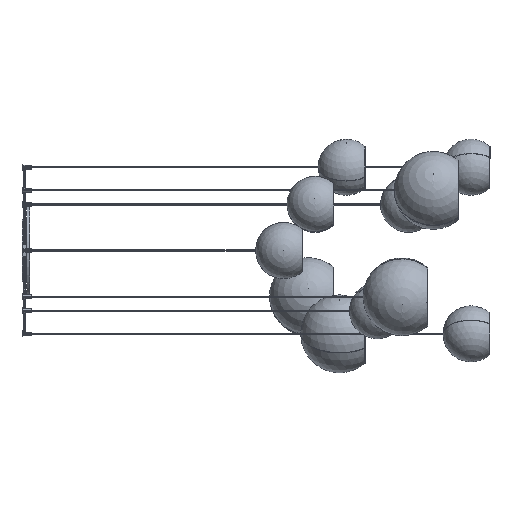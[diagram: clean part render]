
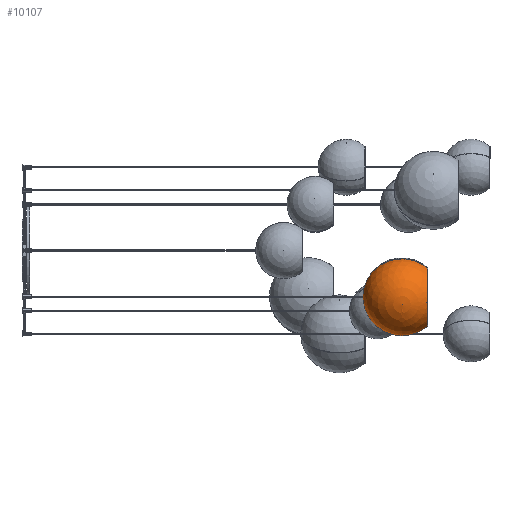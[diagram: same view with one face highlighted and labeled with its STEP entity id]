
A CAD part, left-side view. The second image highlights one B-rep face of the part: STEP entity #10107.
In plain terms, the highlighted spherical face has radius 125 mm.
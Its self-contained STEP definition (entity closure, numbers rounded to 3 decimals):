
#313 = DIRECTION ( 'NONE',  ( 0., -1., 0. ) ) ;
#552 = ORIENTED_EDGE ( 'NONE', *, *, #9149, .T. ) ;
#570 = CIRCLE ( 'NONE', #7699, 125. ) ;
#578 = ORIENTED_EDGE ( 'NONE', *, *, #6528, .F. ) ;
#696 = CIRCLE ( 'NONE', #3138, 95.205 ) ;
#756 = ORIENTED_EDGE ( 'NONE', *, *, #9351, .F. ) ;
#1030 = AXIS2_PLACEMENT_3D ( 'NONE', #5185, #2313, #10976 ) ;
#1190 = CARTESIAN_POINT ( 'NONE',  ( 0., 81., 0. ) ) ;
#1416 = FACE_OUTER_BOUND ( 'NONE', #7073, .T. ) ;
#1555 = VERTEX_POINT ( 'NONE', #5683 ) ;
#1705 = EDGE_CURVE ( 'NONE', #7301, #9358, #4503, .T. ) ;
#2313 = DIRECTION ( 'NONE',  ( 0., -1., 0. ) ) ;
#2718 = CARTESIAN_POINT ( 'NONE',  ( 0., 0., 0. ) ) ;
#2727 = ORIENTED_EDGE ( 'NONE', *, *, #1705, .T. ) ;
#3138 = AXIS2_PLACEMENT_3D ( 'NONE', #2718, #3681, #8471 ) ;
#3303 = DIRECTION ( 'NONE',  ( 1., 0., 0. ) ) ;
#3412 = CARTESIAN_POINT ( 'NONE',  ( 2., 205.984, 0. ) ) ;
#3681 = DIRECTION ( 'NONE',  ( 0., -1., 0. ) ) ;
#3790 = CIRCLE ( 'NONE', #5411, 2. ) ;
#3865 = CARTESIAN_POINT ( 'NONE',  ( 95.205, 0., 0. ) ) ;
#4299 = SPHERICAL_SURFACE ( 'NONE', #6102, 125. ) ;
#4383 = ORIENTED_EDGE ( 'NONE', *, *, #11927, .T. ) ;
#4503 = CIRCLE ( 'NONE', #8800, 125. ) ;
#5118 = CARTESIAN_POINT ( 'NONE',  ( 0., 81., 0. ) ) ;
#5185 = CARTESIAN_POINT ( 'NONE',  ( 0., 205.984, 0. ) ) ;
#5349 = VERTEX_POINT ( 'NONE', #5513 ) ;
#5411 = AXIS2_PLACEMENT_3D ( 'NONE', #11881, #313, #10896 ) ;
#5513 = CARTESIAN_POINT ( 'NONE',  ( 0., 205.984, -2. ) ) ;
#5683 = CARTESIAN_POINT ( 'NONE',  ( -2., 205.984, 0. ) ) ;
#5883 = DIRECTION ( 'NONE',  ( 0., 0., -1. ) ) ;
#6102 = AXIS2_PLACEMENT_3D ( 'NONE', #9212, #9269, #8134 ) ;
#6112 = DIRECTION ( 'NONE',  ( 0., 0., 1. ) ) ;
#6528 = EDGE_CURVE ( 'NONE', #1555, #12097, #570, .T. ) ;
#7073 = EDGE_LOOP ( 'NONE', ( #578, #552, #4383, #2727, #756 ) ) ;
#7301 = VERTEX_POINT ( 'NONE', #3412 ) ;
#7356 = CIRCLE ( 'NONE', #1030, 2. ) ;
#7699 = AXIS2_PLACEMENT_3D ( 'NONE', #1190, #6112, #3303 ) ;
#8134 = DIRECTION ( 'NONE',  ( 1., 0., 0. ) ) ;
#8471 = DIRECTION ( 'NONE',  ( 0., 0., -1. ) ) ;
#8800 = AXIS2_PLACEMENT_3D ( 'NONE', #5118, #5883, #9020 ) ;
#9020 = DIRECTION ( 'NONE',  ( -1., 0., 0. ) ) ;
#9149 = EDGE_CURVE ( 'NONE', #1555, #5349, #3790, .T. ) ;
#9212 = CARTESIAN_POINT ( 'NONE',  ( 0., 81., 0. ) ) ;
#9269 = DIRECTION ( 'NONE',  ( 0., 0., 1. ) ) ;
#9351 = EDGE_CURVE ( 'NONE', #12097, #9358, #696, .T. ) ;
#9358 = VERTEX_POINT ( 'NONE', #3865 ) ;
#10107 = ADVANCED_FACE ( 'NONE', ( #1416 ), #4299, .T. ) ;
#10896 = DIRECTION ( 'NONE',  ( 0., 0., -1. ) ) ;
#10976 = DIRECTION ( 'NONE',  ( 0., 0., -1. ) ) ;
#11641 = CARTESIAN_POINT ( 'NONE',  ( -95.205, 0., 0. ) ) ;
#11881 = CARTESIAN_POINT ( 'NONE',  ( 0., 205.984, 0. ) ) ;
#11927 = EDGE_CURVE ( 'NONE', #5349, #7301, #7356, .T. ) ;
#12097 = VERTEX_POINT ( 'NONE', #11641 ) ;
